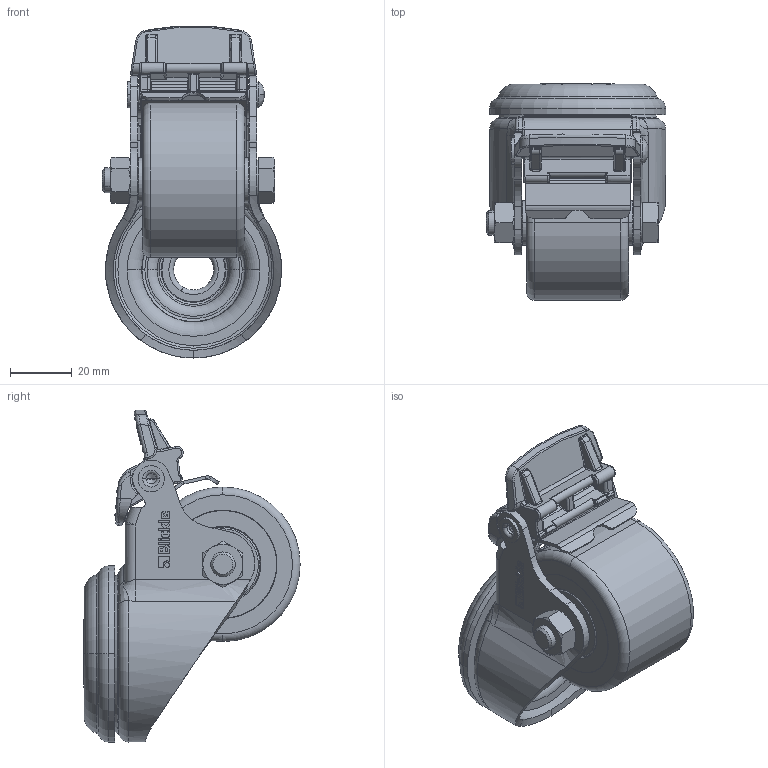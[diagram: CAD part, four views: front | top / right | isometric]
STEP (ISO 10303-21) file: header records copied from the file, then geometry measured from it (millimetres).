
FILE_DESCRIPTION (( 'STEP AP214' ), '1' );
FILE_NAME ('LKRA-VSTH_50K-RA_935482-214.step', '2022-01-13T06:45:02', ( '' ), ( '' ), 'SwSTEP 2.0', 'SolidWorks 2018', '' );
FILE_SCHEMA (( 'AUTOMOTIVE_DESIGN' ));
Length unit declared in the file: millimetre
Products named in the file (5): GH-LKRA_050-125_GH-LKRA-050x35-057-13-RA_8x36; GH-LKRA-050x35-057-13-RA_8x36_G16_3D; VSTH_3D_G16_VSTH_50_8K_843830; LKRA-VSTH_50K-RA_935482-214; VSTH_50_8K_G16_3D
Assembly tree (4 placements, depth 3):
  LKRA-VSTH_50K-RA_935482-214
    GH-LKRA_050-125_GH-LKRA-050x35-057-13-RA_8x36
      GH-LKRA-050x35-057-13-RA_8x36_G16_3D
    VSTH_3D_G16_VSTH_50_8K_843830
      VSTH_50_8K_G16_3D
Bounding box: 58 x 70 x 107.43 mm (x, y, z)
Volume: 121416.6 mm3; surface area: 39652.9 mm2
Topology: 2 solids, 3 shells, 1222 faces, 2992 edges, 1845 vertices
Faces by surface type: plane 429, bspline 359, cylinder 258, torus 96, cone 70, sphere 10
Entity records: 79408 total; most frequent: CARTESIAN_POINT 46640, ORIENTED_EDGE 5976, DIRECTION 4424, EDGE_CURVE 2988, VERTEX_POINT 1845, AXIS2_PLACEMENT_3D 1538, LINE 1348, VECTOR 1348
